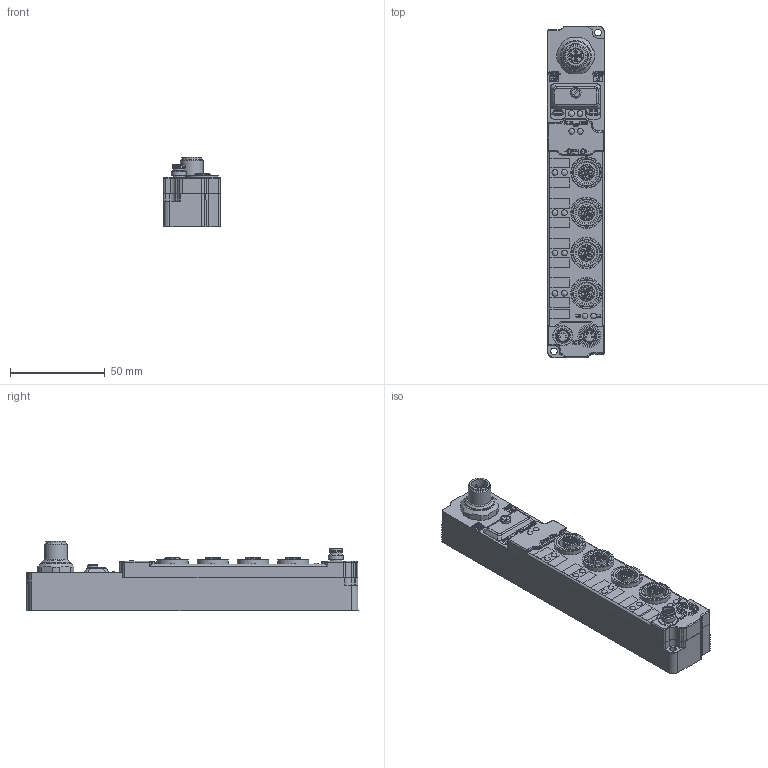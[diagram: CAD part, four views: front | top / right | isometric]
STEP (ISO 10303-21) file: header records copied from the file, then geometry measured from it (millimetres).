
FILE_DESCRIPTION((''),'2;1');
FILE_NAME('C:\TurckZip\SDNB-40A-M12.stp','2008-04-24T15:20:22',('IKOROL'),(''),'Autodesk Inventor 2008','Autodesk Inventor 2008','');
FILE_SCHEMA(('CONFIG_CONTROL_DESIGN'));
Length unit declared in the file: millimetre
Products named in the file (1): Part9
Bounding box: 30.3 x 175.3 x 36.65 mm (x, y, z)
Volume: 89194.4 mm3; surface area: 44972.8 mm2
Topology: 1 solids, 18 shells, 1662 faces, 4067 edges, 2647 vertices
Faces by surface type: plane 813, cylinder 450, bspline 196, cone 144, torus 41, sphere 18
Full cylindrical faces by diameter (mm): 0.8 x8, 1 x28, 1.1 x16, 1.2 x4, 1.4 x4, 1.5 x32, 1.55 x1, 1.6 x4, 1.7 x4, 1.8 x5, 2 x2, 2.3 x1, 2.8 x14, 3 x15, 3.05 x28, 3.2 x1, 3.5 x4, 4.6 x1, 5.7 x3, 5.8 x1, 6.5 x2, 6.8 x1, 6.899 x1, 6.95 x1, 8 x3, 8.1 x4, 8.3 x1, 8.6 x1, 9 x4, 9.4 x1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
Entity records: 51821 total; most frequent: CARTESIAN_POINT 13208, DIRECTION 7349, ORIENTED_EDGE 7092, EDGE_CURVE 3546, AXIS2_PLACEMENT_3D 2654, VERTEX_POINT 2550, EDGE_LOOP 2386, VECTOR 2041
